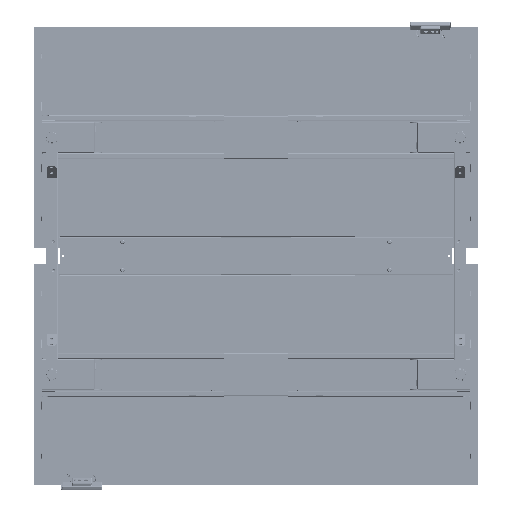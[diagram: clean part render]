
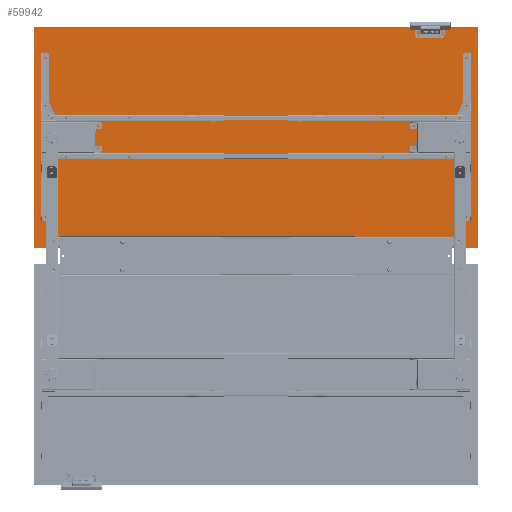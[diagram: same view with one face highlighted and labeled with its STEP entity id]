
A CAD part, front view. The second image highlights one B-rep face of the part: STEP entity #59942.
In plain terms, the highlighted planar face has unit normal (0, -1, 0).
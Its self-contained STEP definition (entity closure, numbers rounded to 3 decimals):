
#4414 = DIRECTION ( 'NONE',  ( 0., 0., 1. ) ) ;
#5899 = VERTEX_POINT ( 'NONE', #80229 ) ;
#8363 = CARTESIAN_POINT ( 'NONE',  ( 700., -12.5, -350. ) ) ;
#13289 = DIRECTION ( 'NONE',  ( 0., 0., 1. ) ) ;
#14913 = VERTEX_POINT ( 'NONE', #8363 ) ;
#15209 = VECTOR ( 'NONE', #103041, 1000. ) ;
#33883 = FACE_OUTER_BOUND ( 'NONE', #137161, .T. ) ;
#37315 = VECTOR ( 'NONE', #4414, 1000. ) ;
#39302 = LINE ( 'NONE', #80437, #15209 ) ;
#44776 = EDGE_CURVE ( 'NONE', #14913, #5899, #45969, .T. ) ;
#45969 = LINE ( 'NONE', #48053, #84772 ) ;
#48053 = CARTESIAN_POINT ( 'NONE',  ( -700., -12.5, -350. ) ) ;
#49631 = EDGE_CURVE ( 'NONE', #85992, #14913, #39302, .T. ) ;
#51016 = CARTESIAN_POINT ( 'NONE',  ( 700., -12.5, 350. ) ) ;
#51235 = LINE ( 'NONE', #71098, #81326 ) ;
#52602 = EDGE_CURVE ( 'NONE', #56388, #85992, #51235, .T. ) ;
#53436 = ORIENTED_EDGE ( 'NONE', *, *, #52602, .F. ) ;
#55795 = PLANE ( 'NONE',  #86512 ) ;
#55866 = ORIENTED_EDGE ( 'NONE', *, *, #49631, .F. ) ;
#56388 = VERTEX_POINT ( 'NONE', #89477 ) ;
#59368 = DIRECTION ( 'NONE',  ( -1., 0., 0. ) ) ;
#59942 = ADVANCED_FACE ( 'NONE', ( #33883 ), #55795, .F. ) ;
#71098 = CARTESIAN_POINT ( 'NONE',  ( -700., -12.5, 350. ) ) ;
#77048 = CARTESIAN_POINT ( 'NONE',  ( 0., -12.5, 0. ) ) ;
#78730 = EDGE_CURVE ( 'NONE', #5899, #56388, #100007, .T. ) ;
#80229 = CARTESIAN_POINT ( 'NONE',  ( -700., -12.5, -350. ) ) ;
#80437 = CARTESIAN_POINT ( 'NONE',  ( 700., -12.5, -350. ) ) ;
#81326 = VECTOR ( 'NONE', #125607, 1000. ) ;
#84772 = VECTOR ( 'NONE', #59368, 1000. ) ;
#85992 = VERTEX_POINT ( 'NONE', #51016 ) ;
#86512 = AXIS2_PLACEMENT_3D ( 'NONE', #77048, #129453, #13289 ) ;
#89477 = CARTESIAN_POINT ( 'NONE',  ( -700., -12.5, 350. ) ) ;
#100007 = LINE ( 'NONE', #120587, #37315 ) ;
#100925 = ORIENTED_EDGE ( 'NONE', *, *, #78730, .F. ) ;
#103041 = DIRECTION ( 'NONE',  ( 0., 0., -1. ) ) ;
#120587 = CARTESIAN_POINT ( 'NONE',  ( -700., -12.5, -350. ) ) ;
#125607 = DIRECTION ( 'NONE',  ( 1., 0., 0. ) ) ;
#125758 = ORIENTED_EDGE ( 'NONE', *, *, #44776, .F. ) ;
#129453 = DIRECTION ( 'NONE',  ( 0., 1., 0. ) ) ;
#137161 = EDGE_LOOP ( 'NONE', ( #100925, #125758, #55866, #53436 ) ) ;
